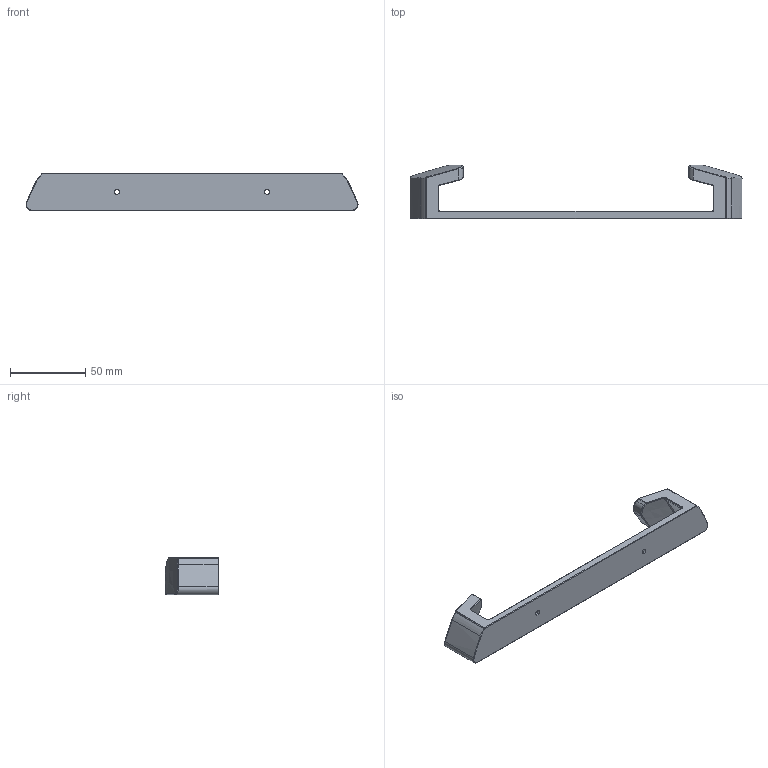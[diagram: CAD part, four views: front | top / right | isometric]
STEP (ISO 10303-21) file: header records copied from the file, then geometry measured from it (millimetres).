
FILE_DESCRIPTION (( 'STEP AP214' ), '1' );
FILE_NAME ('Topfdeckelhalterung 22cm.STEP', '2025-05-01T21:48:12', ( '' ), ( '' ), 'SwSTEP 2.0', 'SolidWorks 2012', '' );
FILE_SCHEMA (( 'AUTOMOTIVE_DESIGN' ));
Length unit declared in the file: millimetre
Products named in the file (1): Topfdeckelhalterung 22cm
Bounding box: 220.99 x 35.75 x 25 mm (x, y, z)
Volume: 42428 mm3; surface area: 18231.1 mm2
Topology: 1 solids, 1 shells, 136 faces, 328 edges, 192 vertices
Faces by surface type: bspline 64, plane 29, cylinder 23, cone 10, torus 10
Entity records: 6943 total; most frequent: CARTESIAN_POINT 4292, ORIENTED_EDGE 652, DIRECTION 384, EDGE_CURVE 326, VERTEX_POINT 192, B_SPLINE_CURVE_WITH_KNOTS 164, AXIS2_PLACEMENT_3D 155, EDGE_LOOP 140
